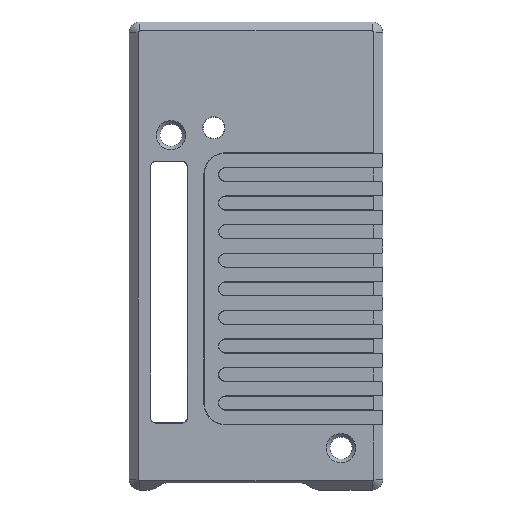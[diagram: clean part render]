
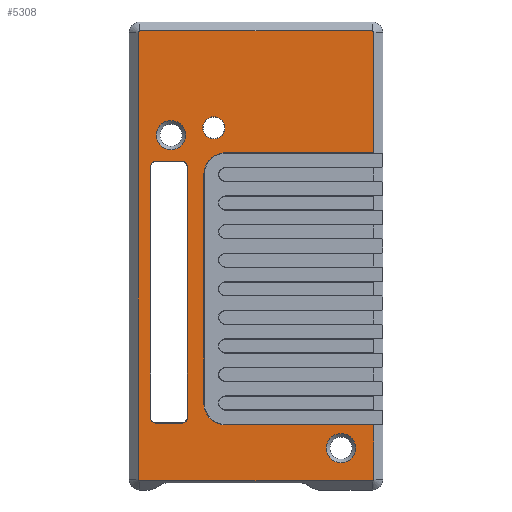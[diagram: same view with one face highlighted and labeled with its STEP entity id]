
A CAD part, top view. The second image highlights one B-rep face of the part: STEP entity #5308.
In plain terms, the highlighted planar face has unit normal (0, 0, 1).
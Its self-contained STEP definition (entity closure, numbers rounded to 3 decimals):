
#44=FACE_BOUND('',#804,.T.);
#45=FACE_BOUND('',#805,.T.);
#46=FACE_BOUND('',#806,.T.);
#47=FACE_BOUND('',#807,.T.);
#212=CIRCLE('',#5716,2.05);
#213=CIRCLE('',#5718,0.25);
#214=CIRCLE('',#5719,0.25);
#215=CIRCLE('',#5720,0.25);
#216=CIRCLE('',#5721,0.25);
#217=CIRCLE('',#5722,3.05);
#218=CIRCLE('',#5723,3.05);
#219=CIRCLE('',#5724,2.05);
#220=CIRCLE('',#5725,0.85);
#221=CIRCLE('',#5726,0.85);
#222=CIRCLE('',#5727,0.85);
#223=CIRCLE('',#5728,0.85);
#224=CIRCLE('',#5729,1.55);
#490=FACE_OUTER_BOUND('',#803,.T.);
#803=EDGE_LOOP('',(#3919,#3920,#3921,#3922,#3923,#3924,#3925,#3926,#3927,
#3928,#3929,#3930,#3931,#3932));
#804=EDGE_LOOP('',(#3933));
#805=EDGE_LOOP('',(#3934,#3935,#3936,#3937,#3938,#3939,#3940,#3941));
#806=EDGE_LOOP('',(#3942));
#807=EDGE_LOOP('',(#3943));
#1201=LINE('',#8337,#1764);
#1202=LINE('',#8339,#1765);
#1203=LINE('',#8343,#1766);
#1204=LINE('',#8347,#1767);
#1205=LINE('',#8351,#1768);
#1206=LINE('',#8355,#1769);
#1207=LINE('',#8357,#1770);
#1208=LINE('',#8361,#1771);
#1209=LINE('',#8367,#1772);
#1210=LINE('',#8371,#1773);
#1211=LINE('',#8375,#1774);
#1212=LINE('',#8379,#1775);
#1764=VECTOR('',#6589,10.);
#1765=VECTOR('',#6590,10.);
#1766=VECTOR('',#6593,10.);
#1767=VECTOR('',#6596,10.);
#1768=VECTOR('',#6599,10.);
#1769=VECTOR('',#6602,10.);
#1770=VECTOR('',#6603,10.);
#1771=VECTOR('',#6606,10.);
#1772=VECTOR('',#6611,10.);
#1773=VECTOR('',#6614,10.);
#1774=VECTOR('',#6617,10.);
#1775=VECTOR('',#6620,10.);
#2345=VERTEX_POINT('',#8331);
#2346=VERTEX_POINT('',#8335);
#2347=VERTEX_POINT('',#8336);
#2348=VERTEX_POINT('',#8338);
#2349=VERTEX_POINT('',#8340);
#2350=VERTEX_POINT('',#8342);
#2351=VERTEX_POINT('',#8344);
#2352=VERTEX_POINT('',#8346);
#2353=VERTEX_POINT('',#8348);
#2354=VERTEX_POINT('',#8350);
#2355=VERTEX_POINT('',#8352);
#2356=VERTEX_POINT('',#8354);
#2357=VERTEX_POINT('',#8356);
#2358=VERTEX_POINT('',#8358);
#2359=VERTEX_POINT('',#8360);
#2360=VERTEX_POINT('',#8363);
#2361=VERTEX_POINT('',#8365);
#2362=VERTEX_POINT('',#8366);
#2363=VERTEX_POINT('',#8368);
#2364=VERTEX_POINT('',#8370);
#2365=VERTEX_POINT('',#8372);
#2366=VERTEX_POINT('',#8374);
#2367=VERTEX_POINT('',#8376);
#2368=VERTEX_POINT('',#8378);
#2369=VERTEX_POINT('',#8381);
#2924=EDGE_CURVE('',#2345,#2345,#212,.T.);
#2925=EDGE_CURVE('',#2346,#2347,#1201,.T.);
#2926=EDGE_CURVE('',#2348,#2346,#1202,.T.);
#2927=EDGE_CURVE('',#2349,#2348,#213,.T.);
#2928=EDGE_CURVE('',#2350,#2349,#1203,.T.);
#2929=EDGE_CURVE('',#2351,#2350,#214,.T.);
#2930=EDGE_CURVE('',#2352,#2351,#1204,.T.);
#2931=EDGE_CURVE('',#2353,#2352,#215,.T.);
#2932=EDGE_CURVE('',#2354,#2353,#1205,.T.);
#2933=EDGE_CURVE('',#2355,#2354,#216,.T.);
#2934=EDGE_CURVE('',#2356,#2355,#1206,.T.);
#2935=EDGE_CURVE('',#2357,#2356,#1207,.T.);
#2936=EDGE_CURVE('',#2358,#2357,#217,.T.);
#2937=EDGE_CURVE('',#2359,#2358,#1208,.T.);
#2938=EDGE_CURVE('',#2347,#2359,#218,.T.);
#2939=EDGE_CURVE('',#2360,#2360,#219,.T.);
#2940=EDGE_CURVE('',#2361,#2362,#1209,.T.);
#2941=EDGE_CURVE('',#2363,#2361,#220,.T.);
#2942=EDGE_CURVE('',#2364,#2363,#1210,.T.);
#2943=EDGE_CURVE('',#2365,#2364,#221,.T.);
#2944=EDGE_CURVE('',#2366,#2365,#1211,.T.);
#2945=EDGE_CURVE('',#2367,#2366,#222,.T.);
#2946=EDGE_CURVE('',#2368,#2367,#1212,.T.);
#2947=EDGE_CURVE('',#2362,#2368,#223,.T.);
#2948=EDGE_CURVE('',#2369,#2369,#224,.T.);
#3919=ORIENTED_EDGE('',*,*,#2925,.F.);
#3920=ORIENTED_EDGE('',*,*,#2926,.F.);
#3921=ORIENTED_EDGE('',*,*,#2927,.F.);
#3922=ORIENTED_EDGE('',*,*,#2928,.F.);
#3923=ORIENTED_EDGE('',*,*,#2929,.F.);
#3924=ORIENTED_EDGE('',*,*,#2930,.F.);
#3925=ORIENTED_EDGE('',*,*,#2931,.F.);
#3926=ORIENTED_EDGE('',*,*,#2932,.F.);
#3927=ORIENTED_EDGE('',*,*,#2933,.F.);
#3928=ORIENTED_EDGE('',*,*,#2934,.F.);
#3929=ORIENTED_EDGE('',*,*,#2935,.F.);
#3930=ORIENTED_EDGE('',*,*,#2936,.F.);
#3931=ORIENTED_EDGE('',*,*,#2937,.F.);
#3932=ORIENTED_EDGE('',*,*,#2938,.F.);
#3933=ORIENTED_EDGE('',*,*,#2939,.F.);
#3934=ORIENTED_EDGE('',*,*,#2940,.F.);
#3935=ORIENTED_EDGE('',*,*,#2941,.F.);
#3936=ORIENTED_EDGE('',*,*,#2942,.F.);
#3937=ORIENTED_EDGE('',*,*,#2943,.F.);
#3938=ORIENTED_EDGE('',*,*,#2944,.F.);
#3939=ORIENTED_EDGE('',*,*,#2945,.F.);
#3940=ORIENTED_EDGE('',*,*,#2946,.F.);
#3941=ORIENTED_EDGE('',*,*,#2947,.F.);
#3942=ORIENTED_EDGE('',*,*,#2948,.F.);
#3943=ORIENTED_EDGE('',*,*,#2924,.F.);
#5094=PLANE('',#5717);
#5308=ADVANCED_FACE('',(#490,#44,#45,#46,#47),#5094,.T.);
#5716=AXIS2_PLACEMENT_3D('',#8333,#6585,#6586);
#5717=AXIS2_PLACEMENT_3D('',#8334,#6587,#6588);
#5718=AXIS2_PLACEMENT_3D('',#8341,#6591,#6592);
#5719=AXIS2_PLACEMENT_3D('',#8345,#6594,#6595);
#5720=AXIS2_PLACEMENT_3D('',#8349,#6597,#6598);
#5721=AXIS2_PLACEMENT_3D('',#8353,#6600,#6601);
#5722=AXIS2_PLACEMENT_3D('',#8359,#6604,#6605);
#5723=AXIS2_PLACEMENT_3D('',#8362,#6607,#6608);
#5724=AXIS2_PLACEMENT_3D('',#8364,#6609,#6610);
#5725=AXIS2_PLACEMENT_3D('',#8369,#6612,#6613);
#5726=AXIS2_PLACEMENT_3D('',#8373,#6615,#6616);
#5727=AXIS2_PLACEMENT_3D('',#8377,#6618,#6619);
#5728=AXIS2_PLACEMENT_3D('',#8380,#6621,#6622);
#5729=AXIS2_PLACEMENT_3D('',#8382,#6623,#6624);
#6585=DIRECTION('center_axis',(0.,0.,1.));
#6586=DIRECTION('ref_axis',(1.,0.,0.));
#6587=DIRECTION('center_axis',(0.,0.,1.));
#6588=DIRECTION('ref_axis',(1.,0.,0.));
#6589=DIRECTION('',(-1.,0.,0.));
#6590=DIRECTION('',(0.,-1.,0.));
#6591=DIRECTION('center_axis',(0.,0.,-1.));
#6592=DIRECTION('ref_axis',(0.707,0.707,0.));
#6593=DIRECTION('',(1.,0.,0.));
#6594=DIRECTION('center_axis',(0.,0.,-1.));
#6595=DIRECTION('ref_axis',(-0.707,0.707,0.));
#6596=DIRECTION('',(0.,1.,0.));
#6597=DIRECTION('center_axis',(0.,0.,-1.));
#6598=DIRECTION('ref_axis',(-0.707,-0.707,0.));
#6599=DIRECTION('',(-1.,0.,0.));
#6600=DIRECTION('center_axis',(0.,0.,-1.));
#6601=DIRECTION('ref_axis',(0.707,-0.707,0.));
#6602=DIRECTION('',(0.,-1.,0.));
#6603=DIRECTION('',(1.,0.,0.));
#6604=DIRECTION('center_axis',(0.,0.,1.));
#6605=DIRECTION('ref_axis',(-1.,0.,0.));
#6606=DIRECTION('',(0.,-1.,0.));
#6607=DIRECTION('center_axis',(0.,0.,1.));
#6608=DIRECTION('ref_axis',(0.,1.,0.));
#6609=DIRECTION('center_axis',(0.,0.,1.));
#6610=DIRECTION('ref_axis',(1.,0.,0.));
#6611=DIRECTION('',(0.,1.,0.));
#6612=DIRECTION('center_axis',(0.,0.,1.));
#6613=DIRECTION('ref_axis',(0.,-1.,0.));
#6614=DIRECTION('',(1.,0.,0.));
#6615=DIRECTION('center_axis',(0.,0.,1.));
#6616=DIRECTION('ref_axis',(-1.,0.,0.));
#6617=DIRECTION('',(0.,-1.,0.));
#6618=DIRECTION('center_axis',(0.,0.,1.));
#6619=DIRECTION('ref_axis',(0.,1.,0.));
#6620=DIRECTION('',(-1.,0.,0.));
#6621=DIRECTION('center_axis',(0.,0.,1.));
#6622=DIRECTION('ref_axis',(1.,0.,0.));
#6623=DIRECTION('center_axis',(0.,0.,1.));
#6624=DIRECTION('ref_axis',(-1.,0.,0.));
#8331=CARTESIAN_POINT('',(9.85,-21.9,10.244));
#8333=CARTESIAN_POINT('Origin',(11.9,-21.9,10.244));
#8334=CARTESIAN_POINT('Origin',(0.,5.05,
10.244));
#8335=CARTESIAN_POINT('',(16.5,19.45,10.244));
#8336=CARTESIAN_POINT('',(-4.25,19.45,10.244));
#8337=CARTESIAN_POINT('',(-2.125,19.45,10.244));
#8338=CARTESIAN_POINT('',(16.5,36.25,10.244));
#8339=CARTESIAN_POINT('',(16.5,-11.35,10.244));
#8340=CARTESIAN_POINT('',(16.25,36.5,10.244));
#8341=CARTESIAN_POINT('Origin',(16.25,36.25,10.244));
#8342=CARTESIAN_POINT('',(-16.25,36.5,10.244));
#8343=CARTESIAN_POINT('',(8.875,36.5,10.244));
#8344=CARTESIAN_POINT('',(-16.5,36.25,10.244));
#8345=CARTESIAN_POINT('Origin',(-16.25,36.25,10.244));
#8346=CARTESIAN_POINT('',(-16.5,-26.25,10.244));
#8347=CARTESIAN_POINT('',(-16.5,21.4,10.244));
#8348=CARTESIAN_POINT('',(-16.25,-26.5,10.244));
#8349=CARTESIAN_POINT('Origin',(-16.25,-26.25,10.244));
#8350=CARTESIAN_POINT('',(16.25,-26.5,10.244));
#8351=CARTESIAN_POINT('',(-8.875,-26.5,10.244));
#8352=CARTESIAN_POINT('',(16.5,-26.25,10.244));
#8353=CARTESIAN_POINT('Origin',(16.25,-26.25,10.244));
#8354=CARTESIAN_POINT('',(16.5,-18.65,10.244));
#8355=CARTESIAN_POINT('',(16.5,-11.35,10.244));
#8356=CARTESIAN_POINT('',(-4.25,-18.65,10.244));
#8357=CARTESIAN_POINT('',(8.875,-18.65,10.244));
#8358=CARTESIAN_POINT('',(-7.3,-15.6,10.244));
#8359=CARTESIAN_POINT('Origin',(-4.25,-15.6,10.244));
#8360=CARTESIAN_POINT('',(-7.3,16.4,10.244));
#8361=CARTESIAN_POINT('',(-7.3,-5.275,10.244));
#8362=CARTESIAN_POINT('Origin',(-4.25,16.4,10.244));
#8363=CARTESIAN_POINT('',(-13.95,21.9,10.244));
#8364=CARTESIAN_POINT('Origin',(-11.9,21.9,10.244));
#8365=CARTESIAN_POINT('',(-9.58,-17.565,10.244));
#8366=CARTESIAN_POINT('',(-9.58,17.415,10.244));
#8367=CARTESIAN_POINT('',(-9.58,-6.408,10.244));
#8368=CARTESIAN_POINT('',(-10.43,-18.415,10.244));
#8369=CARTESIAN_POINT('Origin',(-10.43,-17.565,10.244));
#8370=CARTESIAN_POINT('',(-13.955,-18.415,10.244));
#8371=CARTESIAN_POINT('',(-5.215,-18.415,10.244));
#8372=CARTESIAN_POINT('',(-14.805,-17.565,10.244));
#8373=CARTESIAN_POINT('Origin',(-13.955,-17.565,10.244));
#8374=CARTESIAN_POINT('',(-14.805,17.415,10.244));
#8375=CARTESIAN_POINT('',(-14.805,11.382,10.244));
#8376=CARTESIAN_POINT('',(-13.955,18.265,10.244));
#8377=CARTESIAN_POINT('Origin',(-13.955,17.415,10.244));
#8378=CARTESIAN_POINT('',(-10.43,18.265,10.244));
#8379=CARTESIAN_POINT('',(-6.978,18.265,10.244));
#8380=CARTESIAN_POINT('Origin',(-10.43,17.415,10.244));
#8381=CARTESIAN_POINT('',(-4.35,22.925,10.244));
#8382=CARTESIAN_POINT('Origin',(-5.9,22.925,10.244));
